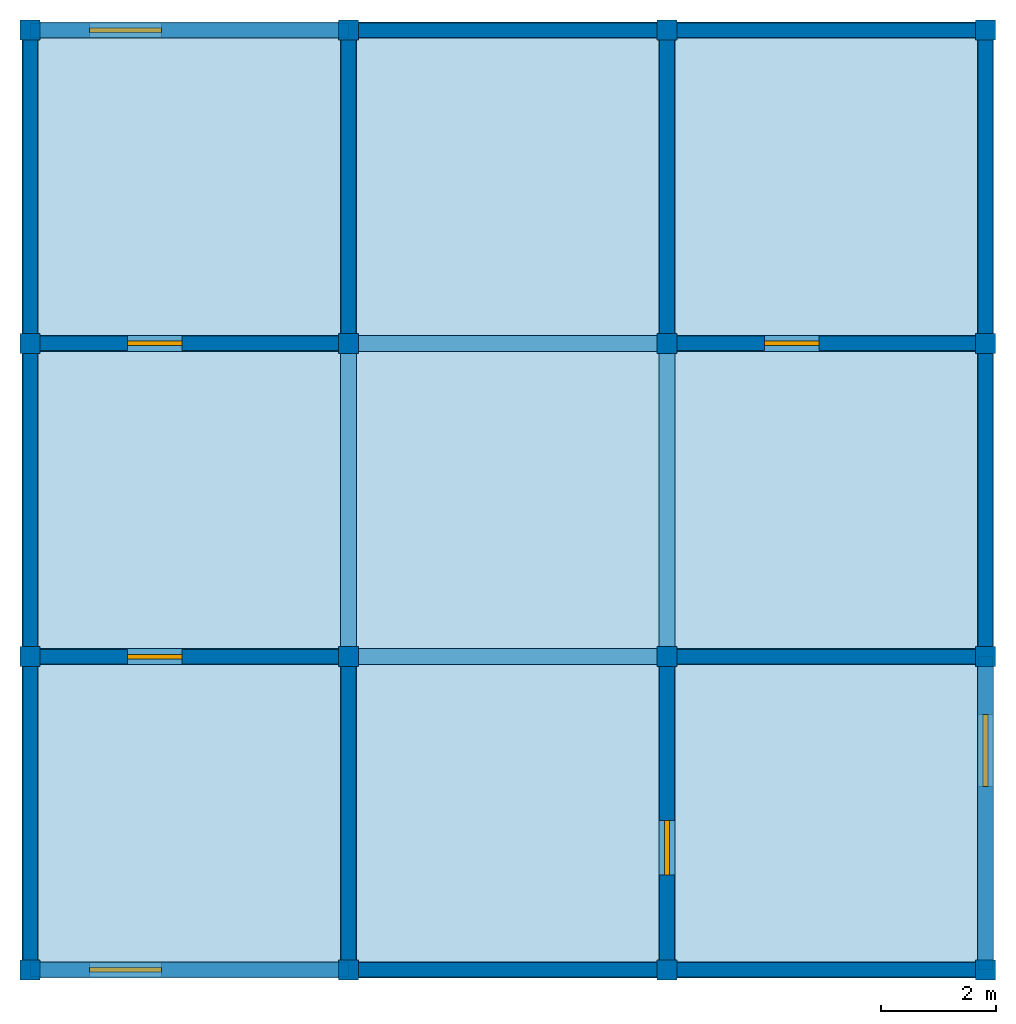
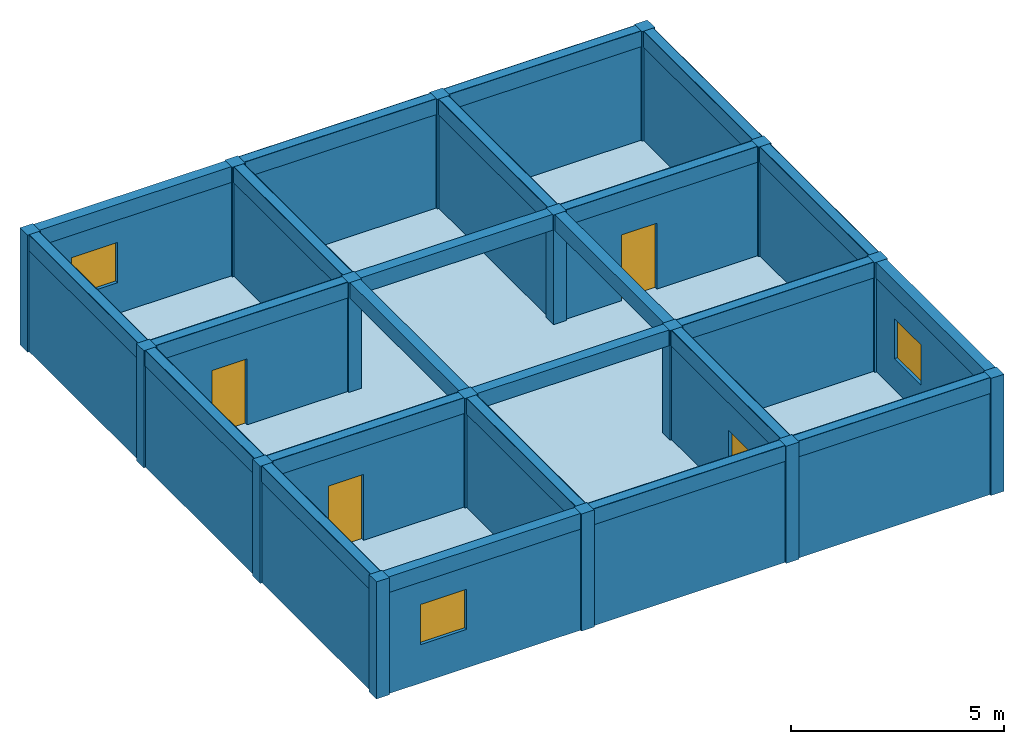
# One storey: 24 beams, 20 walls, 16 columns, 4 doors, 3 windows, 1 slab, 7 openings.
"""IFC4X3 building model written with IfcOpenShell, lengths in metres."""

from ifc_helpers import new_model, si_unit, frame, origin_with_axes, origin_2d, place, context, project, spatial, rectangle, extrude, material, element, fill, save


model = new_model("IFC4X3")

# Units and contexts
model_context = context("Model", 3, precision=1e-05, world=origin_with_axes())
ifc_project = project(units=[si_unit("LENGTHUNIT", "METRE"), si_unit("AREAUNIT", "SQUARE_METRE"), si_unit("VOLUMEUNIT", "CUBIC_METRE")], contexts=[model_context])

# Site, building, storey
site = spatial("IfcSite", under=ifc_project, Name="La Serena Parcel", CompositionType="ELEMENT")
building = spatial("IfcBuilding", under=site, Name="Atlas Building", CompositionType="ELEMENT")
storey = spatial("IfcBuildingStorey", under=building, Name="Level 8", CompositionType="ELEMENT", Elevation=23.44)

# Columns
ifc_material_1 = material(Name="Concrete")
column_1_placement = place(None, frame((-8.31, -8.175, 23.443), z_axis=(0.0, 0.0, 1.0), x_axis=(1.0, 0.0, 0.0)))
element("IfcColumn", 1, at=column_1_placement, inside=storey, material=ifc_material_1, Name="Column 8.1", ObjectType="Structural Column", PredefinedType="COLUMN", context=model_context, shape_type="SweptSolid", body=[
    extrude(rectangle(XDim=0.35, YDim=0.35, at=origin_2d()), origin_with_axes(), (0.0, 0.0, 1.0), 3.349),
])
for number, where, z_axis, x_axis, name in (
    (2, (-8.31, -2.725, 23.443), (0.0, 0.0, 1.0), (1.0, 0.0, 0.0), "Column 8.2"),
    (3, (-8.31, 2.725, 23.443), (0.0, 0.0, 1.0), (1.0, 0.0, 0.0), "Column 8.3"),
):
    element("IfcColumn", number, at=place(None, frame(where, z_axis=z_axis, x_axis=x_axis)), inside=storey, material=ifc_material_1, Name=name, ObjectType="Corner Column", PredefinedType="NOTDEFINED", context=model_context, shape_type="SweptSolid", body=[
        extrude(rectangle(XDim=0.35, YDim=0.35, at=origin_2d()), origin_with_axes(), (0.0, 0.0, 1.0), 3.349),
    ])
column_2_placement = place(None, frame((-8.31, 8.175, 23.443), z_axis=(0.0, 0.0, 1.0), x_axis=(1.0, 0.0, 0.0)))
element("IfcColumn", 4, at=column_2_placement, inside=storey, material=ifc_material_1, Name="Column 8.4", ObjectType="Facade Column", PredefinedType="PILASTER", context=model_context, shape_type="SweptSolid", body=[
    extrude(rectangle(XDim=0.35, YDim=0.35, at=origin_2d()), origin_with_axes(), (0.0, 0.0, 1.0), 3.349),
])
column_3_placement = place(None, frame((-2.77, -8.175, 23.443), z_axis=(0.0, 0.0, 1.0), x_axis=(1.0, 0.0, 0.0)))
element("IfcColumn", 5, at=column_3_placement, inside=storey, material=ifc_material_1, Name="Column 8.5", ObjectType="Corner Column", PredefinedType="USERDEFINED", context=model_context, shape_type="SweptSolid", body=[
    extrude(rectangle(XDim=0.35, YDim=0.35, at=origin_2d()), origin_with_axes(), (0.0, 0.0, 1.0), 3.349),
])
column_4_placement = place(None, frame((-2.77, -2.725, 23.443), z_axis=(0.0, 0.0, 1.0), x_axis=(1.0, 0.0, 0.0)))
element("IfcColumn", 6, at=column_4_placement, inside=storey, material=ifc_material_1, Name="Column 8.6", ObjectType="Structural Column", PredefinedType="COLUMN", context=model_context, shape_type="SweptSolid", body=[
    extrude(rectangle(XDim=0.35, YDim=0.35, at=origin_2d()), origin_with_axes(), (0.0, 0.0, 1.0), 3.349),
])
column_5_placement = place(None, frame((-2.77, 2.725, 23.443), z_axis=(0.0, 0.0, 1.0), x_axis=(1.0, 0.0, 0.0)))
element("IfcColumn", 7, at=column_5_placement, inside=storey, material=ifc_material_1, Name="Column 8.7", ObjectType="Core Column", PredefinedType="USERDEFINED", context=model_context, shape_type="SweptSolid", body=[
    extrude(rectangle(XDim=0.35, YDim=0.35, at=origin_2d()), origin_with_axes(), (0.0, 0.0, 1.0), 3.349),
])
column_6_placement = place(None, frame((-2.77, 8.175, 23.443), z_axis=(0.0, 0.0, 1.0), x_axis=(1.0, 0.0, 0.0)))
element("IfcColumn", 8, at=column_6_placement, inside=storey, material=ifc_material_1, Name="Column 8.8", ObjectType="Corner Column", PredefinedType="NOTDEFINED", context=model_context, shape_type="SweptSolid", body=[
    extrude(rectangle(XDim=0.35, YDim=0.35, at=origin_2d()), origin_with_axes(), (0.0, 0.0, 1.0), 3.349),
])
column_7_placement = place(None, frame((2.77, -8.175, 23.443), z_axis=(0.0, 0.0, 1.0), x_axis=(1.0, 0.0, 0.0)))
element("IfcColumn", 9, at=column_7_placement, inside=storey, material=ifc_material_1, Name="Column 8.9", ObjectType="Facade Column", PredefinedType="USERDEFINED", context=model_context, shape_type="SweptSolid", body=[
    extrude(rectangle(XDim=0.35, YDim=0.35, at=origin_2d()), origin_with_axes(), (0.0, 0.0, 1.0), 3.349),
])
column_8_placement = place(None, frame((2.77, -2.725, 23.443), z_axis=(0.0, 0.0, 1.0), x_axis=(1.0, 0.0, 0.0)))
element("IfcColumn", 10, at=column_8_placement, inside=storey, material=ifc_material_1, Name="Column 8.10", ObjectType="Corner Column", PredefinedType="NOTDEFINED", context=model_context, shape_type="SweptSolid", body=[
    extrude(rectangle(XDim=0.35, YDim=0.35, at=origin_2d()), origin_with_axes(), (0.0, 0.0, 1.0), 3.349),
])
column_9_placement = place(None, frame((2.77, 2.725, 23.443), z_axis=(0.0, 0.0, 1.0), x_axis=(1.0, 0.0, 0.0)))
element("IfcColumn", 11, at=column_9_placement, inside=storey, material=ifc_material_1, Name="Column 8.11", ObjectType="Corner Column", PredefinedType="USERDEFINED", context=model_context, shape_type="SweptSolid", body=[
    extrude(rectangle(XDim=0.35, YDim=0.35, at=origin_2d()), origin_with_axes(), (0.0, 0.0, 1.0), 3.349),
])
column_10_placement = place(None, frame((2.77, 8.175, 23.443), z_axis=(0.0, 0.0, 1.0), x_axis=(1.0, 0.0, 0.0)))
element("IfcColumn", 12, at=column_10_placement, inside=storey, material=ifc_material_1, Name="Column 8.12", ObjectType="Facade Column", PredefinedType="PILASTER", context=model_context, shape_type="SweptSolid", body=[
    extrude(rectangle(XDim=0.35, YDim=0.35, at=origin_2d()), origin_with_axes(), (0.0, 0.0, 1.0), 3.349),
])
column_11_placement = place(None, frame((8.31, -8.175, 23.443), z_axis=(0.0, 0.0, 1.0), x_axis=(1.0, 0.0, 0.0)))
element("IfcColumn", 13, at=column_11_placement, inside=storey, material=ifc_material_1, Name="Column 8.13", ObjectType="Core Column", PredefinedType="USERDEFINED", context=model_context, shape_type="SweptSolid", body=[
    extrude(rectangle(XDim=0.35, YDim=0.35, at=origin_2d()), origin_with_axes(), (0.0, 0.0, 1.0), 3.349),
])
column_12_placement = place(None, frame((8.31, -2.725, 23.443), z_axis=(0.0, 0.0, 1.0), x_axis=(1.0, 0.0, 0.0)))
element("IfcColumn", 14, at=column_12_placement, inside=storey, material=ifc_material_1, Name="Column 8.14", ObjectType="Core Column", PredefinedType="PILASTER", context=model_context, shape_type="SweptSolid", body=[
    extrude(rectangle(XDim=0.35, YDim=0.35, at=origin_2d()), origin_with_axes(), (0.0, 0.0, 1.0), 3.349),
])
column_13_placement = place(None, frame((8.31, 2.725, 23.443), z_axis=(0.0, 0.0, 1.0), x_axis=(1.0, 0.0, 0.0)))
element("IfcColumn", 15, at=column_13_placement, inside=storey, material=ifc_material_1, Name="Column 8.15", ObjectType="Corner Column", PredefinedType="COLUMN", context=model_context, shape_type="SweptSolid", body=[
    extrude(rectangle(XDim=0.35, YDim=0.35, at=origin_2d()), origin_with_axes(), (0.0, 0.0, 1.0), 3.349),
])
column_14_placement = place(None, frame((8.31, 8.175, 23.443), z_axis=(0.0, 0.0, 1.0), x_axis=(1.0, 0.0, 0.0)))
element("IfcColumn", 16, at=column_14_placement, inside=storey, material=ifc_material_1, Name="Column 8.16", ObjectType="Facade Column", PredefinedType="USERDEFINED", context=model_context, shape_type="SweptSolid", body=[
    extrude(rectangle(XDim=0.35, YDim=0.35, at=origin_2d()), origin_with_axes(), (0.0, 0.0, 1.0), 3.349),
])

# Beams
ifc_material_2 = material(Name="Timber")
beam_1_placement = place(None, frame((-5.54, -8.175, 26.342), z_axis=(0.0, 0.0, 1.0), x_axis=(1.0, 0.0, 0.0)))
element("IfcBeam", 17, at=beam_1_placement, inside=storey, material=ifc_material_2, Name="Beam 8.1", ObjectType="Primary Beam", PredefinedType="USERDEFINED", context=model_context, shape_type="SweptSolid", body=[
    extrude(rectangle(XDim=5.54, YDim=0.28, at=origin_2d()), origin_with_axes(), (0.0, 0.0, 1.0), 0.45),
])
beam_2_placement = place(None, frame((0.0, -8.175, 26.342), z_axis=(0.0, 0.0, 1.0), x_axis=(1.0, 0.0, 0.0)))
element("IfcBeam", 18, at=beam_2_placement, inside=storey, material=ifc_material_2, Name="Beam 8.2", ObjectType="Ridge Beam", PredefinedType="USERDEFINED", context=model_context, shape_type="SweptSolid", body=[
    extrude(rectangle(XDim=5.54, YDim=0.28, at=origin_2d()), origin_with_axes(), (0.0, 0.0, 1.0), 0.45),
])
beam_3_placement = place(None, frame((5.54, -8.175, 26.342), z_axis=(0.0, 0.0, 1.0), x_axis=(1.0, 0.0, 0.0)))
element("IfcBeam", 19, at=beam_3_placement, inside=storey, material=ifc_material_2, Name="Beam 8.3", ObjectType="Ridge Beam", PredefinedType="JOIST", context=model_context, shape_type="SweptSolid", body=[
    extrude(rectangle(XDim=5.54, YDim=0.28, at=origin_2d()), origin_with_axes(), (0.0, 0.0, 1.0), 0.45),
])
beam_4_placement = place(None, frame((-5.54, -2.725, 26.342), z_axis=(0.0, 0.0, 1.0), x_axis=(1.0, 0.0, 0.0)))
element("IfcBeam", 20, at=beam_4_placement, inside=storey, material=ifc_material_2, Name="Beam 8.4", ObjectType="Transfer Beam", PredefinedType="NOTDEFINED", context=model_context, shape_type="SweptSolid", body=[
    extrude(rectangle(XDim=5.54, YDim=0.28, at=origin_2d()), origin_with_axes(), (0.0, 0.0, 1.0), 0.45),
])
beam_5_placement = place(None, frame((0.0, -2.725, 26.342), z_axis=(0.0, 0.0, 1.0), x_axis=(1.0, 0.0, 0.0)))
element("IfcBeam", 21, at=beam_5_placement, inside=storey, material=ifc_material_2, Name="Beam 8.5", ObjectType="Ridge Beam", PredefinedType="NOTDEFINED", context=model_context, shape_type="SweptSolid", body=[
    extrude(rectangle(XDim=5.54, YDim=0.28, at=origin_2d()), origin_with_axes(), (0.0, 0.0, 1.0), 0.45),
])
beam_6_placement = place(None, frame((5.54, -2.725, 26.342), z_axis=(0.0, 0.0, 1.0), x_axis=(1.0, 0.0, 0.0)))
element("IfcBeam", 22, at=beam_6_placement, inside=storey, material=ifc_material_2, Name="Beam 8.6", ObjectType="Rafter Beam", PredefinedType="HOLLOWCORE", context=model_context, shape_type="SweptSolid", body=[
    extrude(rectangle(XDim=5.54, YDim=0.28, at=origin_2d()), origin_with_axes(), (0.0, 0.0, 1.0), 0.45),
])
beam_7_placement = place(None, frame((-5.54, 2.725, 26.342), z_axis=(0.0, 0.0, 1.0), x_axis=(1.0, 0.0, 0.0)))
element("IfcBeam", 23, at=beam_7_placement, inside=storey, material=ifc_material_2, Name="Beam 8.7", ObjectType="Rafter Beam", PredefinedType="JOIST", context=model_context, shape_type="SweptSolid", body=[
    extrude(rectangle(XDim=5.54, YDim=0.28, at=origin_2d()), origin_with_axes(), (0.0, 0.0, 1.0), 0.45),
])
beam_8_placement = place(None, frame((0.0, 2.725, 26.342), z_axis=(0.0, 0.0, 1.0), x_axis=(1.0, 0.0, 0.0)))
element("IfcBeam", 24, at=beam_8_placement, inside=storey, material=ifc_material_2, Name="Beam 8.8", ObjectType="Primary Beam", PredefinedType="NOTDEFINED", context=model_context, shape_type="SweptSolid", body=[
    extrude(rectangle(XDim=5.54, YDim=0.28, at=origin_2d()), origin_with_axes(), (0.0, 0.0, 1.0), 0.45),
])
beam_9_placement = place(None, frame((5.54, 2.725, 26.342), z_axis=(0.0, 0.0, 1.0), x_axis=(1.0, 0.0, 0.0)))
element("IfcBeam", 25, at=beam_9_placement, inside=storey, material=ifc_material_2, Name="Beam 8.9", ObjectType="Transfer Beam", PredefinedType="T_BEAM", context=model_context, shape_type="SweptSolid", body=[
    extrude(rectangle(XDim=5.54, YDim=0.28, at=origin_2d()), origin_with_axes(), (0.0, 0.0, 1.0), 0.45),
])
beam_10_placement = place(None, frame((-5.54, 8.175, 26.342), z_axis=(0.0, 0.0, 1.0), x_axis=(1.0, 0.0, 0.0)))
element("IfcBeam", 26, at=beam_10_placement, inside=storey, material=ifc_material_2, Name="Beam 8.10", ObjectType="Primary Beam", PredefinedType="SPANDREL", context=model_context, shape_type="SweptSolid", body=[
    extrude(rectangle(XDim=5.54, YDim=0.28, at=origin_2d()), origin_with_axes(), (0.0, 0.0, 1.0), 0.45),
])
beam_11_placement = place(None, frame((0.0, 8.175, 26.342), z_axis=(0.0, 0.0, 1.0), x_axis=(1.0, 0.0, 0.0)))
element("IfcBeam", 27, at=beam_11_placement, inside=storey, material=ifc_material_2, Name="Beam 8.11", ObjectType="Transfer Beam", PredefinedType="USERDEFINED", context=model_context, shape_type="SweptSolid", body=[
    extrude(rectangle(XDim=5.54, YDim=0.28, at=origin_2d()), origin_with_axes(), (0.0, 0.0, 1.0), 0.45),
])
beam_12_placement = place(None, frame((5.54, 8.175, 26.342), z_axis=(0.0, 0.0, 1.0), x_axis=(1.0, 0.0, 0.0)))
element("IfcBeam", 28, at=beam_12_placement, inside=storey, material=ifc_material_2, Name="Beam 8.12", ObjectType="Rafter Beam", PredefinedType="T_BEAM", context=model_context, shape_type="SweptSolid", body=[
    extrude(rectangle(XDim=5.54, YDim=0.28, at=origin_2d()), origin_with_axes(), (0.0, 0.0, 1.0), 0.45),
])
beam_13_placement = place(None, frame((-8.31, -5.45, 26.342), z_axis=(0.0, 0.0, 1.0), x_axis=(0.0, 1.0, 0.0)))
element("IfcBeam", 29, at=beam_13_placement, inside=storey, material=ifc_material_2, Name="Beam 8.13", ObjectType="Rafter Beam", PredefinedType="JOIST", context=model_context, shape_type="SweptSolid", body=[
    extrude(rectangle(XDim=5.45, YDim=0.28, at=origin_2d()), origin_with_axes(), (0.0, 0.0, 1.0), 0.45),
])
beam_14_placement = place(None, frame((-8.31, 0.0, 26.342), z_axis=(0.0, 0.0, 1.0), x_axis=(0.0, 1.0, 0.0)))
element("IfcBeam", 30, at=beam_14_placement, inside=storey, material=ifc_material_2, Name="Beam 8.14", ObjectType="Transfer Beam", PredefinedType="LINTEL", context=model_context, shape_type="SweptSolid", body=[
    extrude(rectangle(XDim=5.45, YDim=0.28, at=origin_2d()), origin_with_axes(), (0.0, 0.0, 1.0), 0.45),
])
beam_15_placement = place(None, frame((-8.31, 5.45, 26.342), z_axis=(0.0, 0.0, 1.0), x_axis=(0.0, 1.0, 0.0)))
element("IfcBeam", 31, at=beam_15_placement, inside=storey, material=ifc_material_2, Name="Beam 8.15", ObjectType="Rafter Beam", PredefinedType="LINTEL", context=model_context, shape_type="SweptSolid", body=[
    extrude(rectangle(XDim=5.45, YDim=0.28, at=origin_2d()), origin_with_axes(), (0.0, 0.0, 1.0), 0.45),
])
beam_16_placement = place(None, frame((-2.77, -5.45, 26.342), z_axis=(0.0, 0.0, 1.0), x_axis=(0.0, 1.0, 0.0)))
element("IfcBeam", 32, at=beam_16_placement, inside=storey, material=ifc_material_2, Name="Beam 8.16", ObjectType="Secondary Beam", PredefinedType="JOIST", context=model_context, shape_type="SweptSolid", body=[
    extrude(rectangle(XDim=5.45, YDim=0.28, at=origin_2d()), origin_with_axes(), (0.0, 0.0, 1.0), 0.45),
])
beam_17_placement = place(None, frame((-2.77, 0.0, 26.342), z_axis=(0.0, 0.0, 1.0), x_axis=(0.0, 1.0, 0.0)))
element("IfcBeam", 33, at=beam_17_placement, inside=storey, material=ifc_material_2, Name="Beam 8.17", ObjectType="Secondary Beam", PredefinedType="SPANDREL", context=model_context, shape_type="SweptSolid", body=[
    extrude(rectangle(XDim=5.45, YDim=0.28, at=origin_2d()), origin_with_axes(), (0.0, 0.0, 1.0), 0.45),
])
beam_18_placement = place(None, frame((-2.77, 5.45, 26.342), z_axis=(0.0, 0.0, 1.0), x_axis=(0.0, 1.0, 0.0)))
element("IfcBeam", 34, at=beam_18_placement, inside=storey, material=ifc_material_2, Name="Beam 8.18", ObjectType="Primary Beam", PredefinedType="HOLLOWCORE", context=model_context, shape_type="SweptSolid", body=[
    extrude(rectangle(XDim=5.45, YDim=0.28, at=origin_2d()), origin_with_axes(), (0.0, 0.0, 1.0), 0.45),
])
beam_19_placement = place(None, frame((2.77, -5.45, 26.342), z_axis=(0.0, 0.0, 1.0), x_axis=(0.0, 1.0, 0.0)))
element("IfcBeam", 35, at=beam_19_placement, inside=storey, material=ifc_material_2, Name="Beam 8.19", ObjectType="Primary Beam", PredefinedType="NOTDEFINED", context=model_context, shape_type="SweptSolid", body=[
    extrude(rectangle(XDim=5.45, YDim=0.28, at=origin_2d()), origin_with_axes(), (0.0, 0.0, 1.0), 0.45),
])
beam_20_placement = place(None, frame((2.77, 0.0, 26.342), z_axis=(0.0, 0.0, 1.0), x_axis=(0.0, 1.0, 0.0)))
element("IfcBeam", 36, at=beam_20_placement, inside=storey, material=ifc_material_2, Name="Beam 8.20", ObjectType="Transfer Beam", PredefinedType="LINTEL", context=model_context, shape_type="SweptSolid", body=[
    extrude(rectangle(XDim=5.45, YDim=0.28, at=origin_2d()), origin_with_axes(), (0.0, 0.0, 1.0), 0.45),
])
beam_21_placement = place(None, frame((2.77, 5.45, 26.342), z_axis=(0.0, 0.0, 1.0), x_axis=(0.0, 1.0, 0.0)))
element("IfcBeam", 37, at=beam_21_placement, inside=storey, material=ifc_material_2, Name="Beam 8.21", ObjectType="Secondary Beam", PredefinedType="LINTEL", context=model_context, shape_type="SweptSolid", body=[
    extrude(rectangle(XDim=5.45, YDim=0.28, at=origin_2d()), origin_with_axes(), (0.0, 0.0, 1.0), 0.45),
])
beam_22_placement = place(None, frame((8.31, -5.45, 26.342), z_axis=(0.0, 0.0, 1.0), x_axis=(0.0, 1.0, 0.0)))
element("IfcBeam", 38, at=beam_22_placement, inside=storey, material=ifc_material_2, Name="Beam 8.22", ObjectType="Secondary Beam", PredefinedType="T_BEAM", context=model_context, shape_type="SweptSolid", body=[
    extrude(rectangle(XDim=5.45, YDim=0.28, at=origin_2d()), origin_with_axes(), (0.0, 0.0, 1.0), 0.45),
])
beam_23_placement = place(None, frame((8.31, 0.0, 26.342), z_axis=(0.0, 0.0, 1.0), x_axis=(0.0, 1.0, 0.0)))
element("IfcBeam", 39, at=beam_23_placement, inside=storey, material=ifc_material_2, Name="Beam 8.23", ObjectType="Secondary Beam", PredefinedType="JOIST", context=model_context, shape_type="SweptSolid", body=[
    extrude(rectangle(XDim=5.45, YDim=0.28, at=origin_2d()), origin_with_axes(), (0.0, 0.0, 1.0), 0.45),
])
beam_24_placement = place(None, frame((8.31, 5.45, 26.342), z_axis=(0.0, 0.0, 1.0), x_axis=(0.0, 1.0, 0.0)))
element("IfcBeam", 40, at=beam_24_placement, inside=storey, material=ifc_material_2, Name="Beam 8.24", ObjectType="Primary Beam", PredefinedType="NOTDEFINED", context=model_context, shape_type="SweptSolid", body=[
    extrude(rectangle(XDim=5.45, YDim=0.28, at=origin_2d()), origin_with_axes(), (0.0, 0.0, 1.0), 0.45),
])

# Slab
slab_placement = place(None, frame((0.0, 0.0, 23.44), z_axis=(0.0, 0.0, 1.0), x_axis=(1.0, 0.0, 0.0)))
element("IfcSlab", 41, at=slab_placement, inside=storey, material=ifc_material_2, Name="Slab 8", ObjectType="Floor Slab", PredefinedType="FLOOR", context=model_context, shape_type="SweptSolid", body=[
    extrude(rectangle(XDim=16.62, YDim=16.35, at=origin_2d()), origin_with_axes(), (0.0, 0.0, 1.0), 0.22),
])

# Wall, opening, door
ifc_material_3 = material(Name="Gypsum")
wall_1_placement = place(None, frame((-5.54, -2.725, 23.443), z_axis=(0.0, 0.0, 1.0), x_axis=(1.0, 0.0, 0.0)))
wall_1 = element("IfcWall", 42, at=wall_1_placement, inside=storey, material=ifc_material_3, Name="Wall 8.1", ObjectType="Corridor Partition", PredefinedType="PARAPET", context=model_context, shape_type="SweptSolid", body=[
    extrude(rectangle(XDim=5.54, YDim=0.254169, at=origin_2d()), origin_with_axes(), (0.0, 0.0, 1.0), 3.349),
])
opening_1_placement = place(None, frame((-6.14, -2.725, 23.443), z_axis=(0.0, 0.0, 1.0), x_axis=(1.0, 0.0, 0.0)))
opening_1 = element("IfcOpeningElement", 43, at=opening_1_placement, cuts=wall_1, Name="Door opening 8.1", ObjectType="Door Opening", PredefinedType="OPENING", context=model_context, shape_type="SweptSolid", body=[
    extrude(rectangle(XDim=0.95, YDim=0.334169, at=origin_2d()), origin_with_axes(), (0.0, 0.0, 1.0), 2.1),
])
door_1_placement = place(None, frame((-6.14, -2.725, 23.443), z_axis=(0.0, 0.0, 1.0), x_axis=(1.0, 0.0, 0.0)))
door_1 = element("IfcDoor", 44, at=door_1_placement, inside=storey, Name="Door 8.1", ObjectType="Entry Door", OverallHeight=2.1, OverallWidth=0.95, context=model_context, shape_type="SweptSolid", body=[
    extrude(rectangle(XDim=0.95, YDim=0.08, at=origin_2d()), origin_with_axes(), (0.0, 0.0, 1.0), 2.1),
])
fill(opening_1, door_1)

# Wall
ifc_material_4 = material(Name="CLT")
wall_2_placement = place(None, frame((-2.77, -5.45, 23.443), z_axis=(0.0, 0.0, 1.0), x_axis=(0.0, 1.0, 0.0)))
element("IfcWall", 45, at=wall_2_placement, inside=storey, material=ifc_material_4, Name="Wall 8.2", ObjectType="Corridor Partition", PredefinedType="NOTDEFINED", context=model_context, shape_type="SweptSolid", body=[
    extrude(rectangle(XDim=5.45, YDim=0.254169, at=origin_2d()), origin_with_axes(), (0.0, 0.0, 1.0), 3.349),
])

# Wall, opening, window
wall_3_placement = place(None, frame((-5.54, -8.175, 23.443), z_axis=(0.0, 0.0, 1.0), x_axis=(1.0, 0.0, 0.0)))
wall_3 = element("IfcWall", 46, at=wall_3_placement, inside=storey, material=ifc_material_4, Name="Wall 8.3", ObjectType="Exterior Wall", PredefinedType="PARTITIONING", context=model_context, shape_type="SweptSolid", body=[
    extrude(rectangle(XDim=5.54, YDim=0.254169, at=origin_2d()), origin_with_axes(), (0.0, 0.0, 1.0), 3.349),
])
opening_2_placement = place(None, frame((-6.648, -8.175, 24.543), z_axis=(0.0, 0.0, 1.0), x_axis=(1.0, 0.0, 0.0)))
opening_2 = element("IfcOpeningElement", 47, at=opening_2_placement, cuts=wall_3, Name="Window opening 8.2", ObjectType="Window Opening", PredefinedType="OPENING", context=model_context, shape_type="SweptSolid", body=[
    extrude(rectangle(XDim=1.25, YDim=0.334169, at=origin_2d()), origin_with_axes(), (0.0, 0.0, 1.0), 1.15),
])
window_1_placement = place(None, frame((-6.648, -8.175, 24.543), z_axis=(0.0, 0.0, 1.0), x_axis=(1.0, 0.0, 0.0)))
window_1 = element("IfcWindow", 48, at=window_1_placement, inside=storey, Name="Window 8.2", ObjectType="Operable Window", OverallHeight=1.15, OverallWidth=1.25, context=model_context, shape_type="SweptSolid", body=[
    extrude(rectangle(XDim=1.25, YDim=0.08, at=origin_2d()), origin_with_axes(), (0.0, 0.0, 1.0), 1.15),
])
fill(opening_2, window_1)

# Wall
wall_4_placement = place(None, frame((-8.31, -5.45, 23.443), z_axis=(0.0, 0.0, 1.0), x_axis=(0.0, 1.0, 0.0)))
element("IfcWall", 49, at=wall_4_placement, inside=storey, material=ifc_material_3, Name="Wall 8.4", ObjectType="Exterior Wall", PredefinedType="PLUMBINGWALL", context=model_context, shape_type="SweptSolid", body=[
    extrude(rectangle(XDim=5.45, YDim=0.254169, at=origin_2d()), origin_with_axes(), (0.0, 0.0, 1.0), 3.349),
])

# Wall, opening, door
wall_5_placement = place(None, frame((2.77, -5.45, 23.443), z_axis=(0.0, 0.0, 1.0), x_axis=(0.0, 1.0, 0.0)))
wall_5 = element("IfcWall", 50, at=wall_5_placement, inside=storey, material=ifc_material_3, Name="Wall 8.5", ObjectType="Corridor Partition", PredefinedType="POLYGONAL", context=model_context, shape_type="SweptSolid", body=[
    extrude(rectangle(XDim=5.45, YDim=0.254169, at=origin_2d()), origin_with_axes(), (0.0, 0.0, 1.0), 3.349),
])
opening_3_placement = place(None, frame((2.77, -6.05, 23.443), z_axis=(0.0, 0.0, 1.0), x_axis=(0.0, 1.0, 0.0)))
opening_3 = element("IfcOpeningElement", 51, at=opening_3_placement, cuts=wall_5, Name="Door opening 8.3", ObjectType="Door Opening", PredefinedType="OPENING", context=model_context, shape_type="SweptSolid", body=[
    extrude(rectangle(XDim=0.95, YDim=0.334169, at=origin_2d()), origin_with_axes(), (0.0, 0.0, 1.0), 2.1),
])
door_2_placement = place(None, frame((2.77, -6.05, 23.443), z_axis=(0.0, 0.0, 1.0), x_axis=(0.0, 1.0, 0.0)))
door_2 = element("IfcDoor", 52, at=door_2_placement, inside=storey, Name="Door 8.3", ObjectType="Entry Door", OverallHeight=2.1, OverallWidth=0.95, context=model_context, shape_type="SweptSolid", body=[
    extrude(rectangle(XDim=0.95, YDim=0.08, at=origin_2d()), origin_with_axes(), (0.0, 0.0, 1.0), 2.1),
])
fill(opening_3, door_2)

# Walls
wall_6_placement = place(None, frame((0.0, -8.175, 23.443), z_axis=(0.0, 0.0, 1.0), x_axis=(1.0, 0.0, 0.0)))
element("IfcWall", 53, at=wall_6_placement, inside=storey, material=ifc_material_1, Name="Wall 8.6", ObjectType="Exterior Wall", PredefinedType="STANDARD", context=model_context, shape_type="SweptSolid", body=[
    extrude(rectangle(XDim=5.54, YDim=0.254169, at=origin_2d()), origin_with_axes(), (0.0, 0.0, 1.0), 3.349),
])
ifc_material_5 = material(Name="Brick")
wall_7_placement = place(None, frame((5.54, -2.725, 23.443), z_axis=(0.0, 0.0, 1.0), x_axis=(1.0, 0.0, 0.0)))
element("IfcWall", 54, at=wall_7_placement, inside=storey, material=ifc_material_5, Name="Wall 8.7", ObjectType="Corridor Partition", PredefinedType="PLUMBINGWALL", context=model_context, shape_type="SweptSolid", body=[
    extrude(rectangle(XDim=5.54, YDim=0.254169, at=origin_2d()), origin_with_axes(), (0.0, 0.0, 1.0), 3.349),
])

# Wall, opening, window
wall_8_placement = place(None, frame((8.31, -5.45, 23.443), z_axis=(0.0, 0.0, 1.0), x_axis=(0.0, 1.0, 0.0)))
wall_8 = element("IfcWall", 55, at=wall_8_placement, inside=storey, material=ifc_material_3, Name="Wall 8.8", ObjectType="Exterior Wall", PredefinedType="POLYGONAL", context=model_context, shape_type="SweptSolid", body=[
    extrude(rectangle(XDim=5.45, YDim=0.254169, at=origin_2d()), origin_with_axes(), (0.0, 0.0, 1.0), 3.349),
])
opening_4_placement = place(None, frame((8.31, -4.36, 24.543), z_axis=(0.0, 0.0, 1.0), x_axis=(0.0, 1.0, 0.0)))
opening_4 = element("IfcOpeningElement", 56, at=opening_4_placement, cuts=wall_8, Name="Window opening 8.4", ObjectType="Window Opening", PredefinedType="OPENING", context=model_context, shape_type="SweptSolid", body=[
    extrude(rectangle(XDim=1.25, YDim=0.334169, at=origin_2d()), origin_with_axes(), (0.0, 0.0, 1.0), 1.15),
])
window_2_placement = place(None, frame((8.31, -4.36, 24.543), z_axis=(0.0, 0.0, 1.0), x_axis=(0.0, 1.0, 0.0)))
window_2 = element("IfcWindow", 57, at=window_2_placement, inside=storey, Name="Window 8.4", ObjectType="Louvre Window", OverallHeight=1.15, OverallWidth=1.25, context=model_context, shape_type="SweptSolid", body=[
    extrude(rectangle(XDim=1.25, YDim=0.08, at=origin_2d()), origin_with_axes(), (0.0, 0.0, 1.0), 1.15),
])
fill(opening_4, window_2)

# Wall
wall_9_placement = place(None, frame((5.54, -8.175, 23.443), z_axis=(0.0, 0.0, 1.0), x_axis=(1.0, 0.0, 0.0)))
element("IfcWall", 58, at=wall_9_placement, inside=storey, material=ifc_material_1, Name="Wall 8.9", ObjectType="Exterior Wall", PredefinedType="USERDEFINED", context=model_context, shape_type="SweptSolid", body=[
    extrude(rectangle(XDim=5.54, YDim=0.254169, at=origin_2d()), origin_with_axes(), (0.0, 0.0, 1.0), 3.349),
])

# Wall, opening, door
wall_10_placement = place(None, frame((-5.54, 2.725, 23.443), z_axis=(0.0, 0.0, 1.0), x_axis=(1.0, 0.0, 0.0)))
wall_10 = element("IfcWall", 59, at=wall_10_placement, inside=storey, material=ifc_material_3, Name="Wall 8.10", ObjectType="Corridor Partition", PredefinedType="MOVABLE", context=model_context, shape_type="SweptSolid", body=[
    extrude(rectangle(XDim=5.54, YDim=0.254169, at=origin_2d()), origin_with_axes(), (0.0, 0.0, 1.0), 3.349),
])
opening_5_placement = place(None, frame((-6.14, 2.725, 23.443), z_axis=(0.0, 0.0, 1.0), x_axis=(1.0, 0.0, 0.0)))
opening_5 = element("IfcOpeningElement", 60, at=opening_5_placement, cuts=wall_10, Name="Door opening 8.5", ObjectType="Door Opening", PredefinedType="OPENING", context=model_context, shape_type="SweptSolid", body=[
    extrude(rectangle(XDim=0.95, YDim=0.334169, at=origin_2d()), origin_with_axes(), (0.0, 0.0, 1.0), 2.1),
])
door_3_placement = place(None, frame((-6.14, 2.725, 23.443), z_axis=(0.0, 0.0, 1.0), x_axis=(1.0, 0.0, 0.0)))
door_3 = element("IfcDoor", 61, at=door_3_placement, inside=storey, Name="Door 8.5", ObjectType="Interior Door", OverallHeight=2.1, OverallWidth=0.95, context=model_context, shape_type="SweptSolid", body=[
    extrude(rectangle(XDim=0.95, YDim=0.08, at=origin_2d()), origin_with_axes(), (0.0, 0.0, 1.0), 2.1),
])
fill(opening_5, door_3)

# Wall
wall_11_placement = place(None, frame((-8.31, 0.0, 23.443), z_axis=(0.0, 0.0, 1.0), x_axis=(0.0, 1.0, 0.0)))
element("IfcWall", 62, at=wall_11_placement, inside=storey, material=ifc_material_4, Name="Wall 8.11", ObjectType="Exterior Wall", PredefinedType="SOLIDWALL", context=model_context, shape_type="SweptSolid", body=[
    extrude(rectangle(XDim=5.45, YDim=0.254169, at=origin_2d()), origin_with_axes(), (0.0, 0.0, 1.0), 3.349),
])

# Wall, opening, door
wall_12_placement = place(None, frame((5.54, 2.725, 23.443), z_axis=(0.0, 0.0, 1.0), x_axis=(1.0, 0.0, 0.0)))
wall_12 = element("IfcWall", 63, at=wall_12_placement, inside=storey, material=ifc_material_4, Name="Wall 8.12", ObjectType="Corridor Partition", PredefinedType="MOVABLE", context=model_context, shape_type="SweptSolid", body=[
    extrude(rectangle(XDim=5.54, YDim=0.254169, at=origin_2d()), origin_with_axes(), (0.0, 0.0, 1.0), 3.349),
])
opening_6_placement = place(None, frame((4.94, 2.725, 23.443), z_axis=(0.0, 0.0, 1.0), x_axis=(1.0, 0.0, 0.0)))
opening_6 = element("IfcOpeningElement", 64, at=opening_6_placement, cuts=wall_12, Name="Door opening 8.7", ObjectType="Door Opening", PredefinedType="OPENING", context=model_context, shape_type="SweptSolid", body=[
    extrude(rectangle(XDim=0.95, YDim=0.334169, at=origin_2d()), origin_with_axes(), (0.0, 0.0, 1.0), 2.1),
])
door_4_placement = place(None, frame((4.94, 2.725, 23.443), z_axis=(0.0, 0.0, 1.0), x_axis=(1.0, 0.0, 0.0)))
door_4 = element("IfcDoor", 65, at=door_4_placement, inside=storey, Name="Door 8.7", ObjectType="Entry Door", OverallHeight=2.1, OverallWidth=0.95, context=model_context, shape_type="SweptSolid", body=[
    extrude(rectangle(XDim=0.95, YDim=0.08, at=origin_2d()), origin_with_axes(), (0.0, 0.0, 1.0), 2.1),
])
fill(opening_6, door_4)

# Wall
wall_13_placement = place(None, frame((8.31, 0.0, 23.443), z_axis=(0.0, 0.0, 1.0), x_axis=(0.0, 1.0, 0.0)))
element("IfcWall", 66, at=wall_13_placement, inside=storey, material=ifc_material_5, Name="Wall 8.13", ObjectType="Exterior Wall", PredefinedType="PLUMBINGWALL", context=model_context, shape_type="SweptSolid", body=[
    extrude(rectangle(XDim=5.45, YDim=0.254169, at=origin_2d()), origin_with_axes(), (0.0, 0.0, 1.0), 3.349),
])

# Wall, opening, window
wall_14_placement = place(None, frame((-5.54, 8.175, 23.443), z_axis=(0.0, 0.0, 1.0), x_axis=(1.0, 0.0, 0.0)))
wall_14 = element("IfcWall", 67, at=wall_14_placement, inside=storey, material=ifc_material_4, Name="Wall 8.14", ObjectType="Exterior Wall", PredefinedType="NOTDEFINED", context=model_context, shape_type="SweptSolid", body=[
    extrude(rectangle(XDim=5.54, YDim=0.254169, at=origin_2d()), origin_with_axes(), (0.0, 0.0, 1.0), 3.349),
])
opening_7_placement = place(None, frame((-6.648, 8.175, 24.543), z_axis=(0.0, 0.0, 1.0), x_axis=(1.0, 0.0, 0.0)))
opening_7 = element("IfcOpeningElement", 68, at=opening_7_placement, cuts=wall_14, Name="Window opening 8.6", ObjectType="Window Opening", PredefinedType="OPENING", context=model_context, shape_type="SweptSolid", body=[
    extrude(rectangle(XDim=1.25, YDim=0.334169, at=origin_2d()), origin_with_axes(), (0.0, 0.0, 1.0), 1.15),
])
window_3_placement = place(None, frame((-6.648, 8.175, 24.543), z_axis=(0.0, 0.0, 1.0), x_axis=(1.0, 0.0, 0.0)))
window_3 = element("IfcWindow", 69, at=window_3_placement, inside=storey, Name="Window 8.6", ObjectType="Operable Window", OverallHeight=1.15, OverallWidth=1.25, context=model_context, shape_type="SweptSolid", body=[
    extrude(rectangle(XDim=1.25, YDim=0.08, at=origin_2d()), origin_with_axes(), (0.0, 0.0, 1.0), 1.15),
])
fill(opening_7, window_3)

# Walls
wall_15_placement = place(None, frame((-2.77, 5.45, 23.443), z_axis=(0.0, 0.0, 1.0), x_axis=(0.0, 1.0, 0.0)))
element("IfcWall", 70, at=wall_15_placement, inside=storey, material=ifc_material_1, Name="Wall 8.15", ObjectType="Corridor Partition", PredefinedType="PLUMBINGWALL", context=model_context, shape_type="SweptSolid", body=[
    extrude(rectangle(XDim=5.45, YDim=0.254169, at=origin_2d()), origin_with_axes(), (0.0, 0.0, 1.0), 3.349),
])
wall_16_placement = place(None, frame((-8.31, 5.45, 23.443), z_axis=(0.0, 0.0, 1.0), x_axis=(0.0, 1.0, 0.0)))
element("IfcWall", 71, at=wall_16_placement, inside=storey, material=ifc_material_3, Name="Wall 8.16", ObjectType="Exterior Wall", PredefinedType="ELEMENTEDWALL", context=model_context, shape_type="SweptSolid", body=[
    extrude(rectangle(XDim=5.45, YDim=0.254169, at=origin_2d()), origin_with_axes(), (0.0, 0.0, 1.0), 3.349),
])
wall_17_placement = place(None, frame((0.0, 8.175, 23.443), z_axis=(0.0, 0.0, 1.0), x_axis=(1.0, 0.0, 0.0)))
element("IfcWall", 72, at=wall_17_placement, inside=storey, material=ifc_material_5, Name="Wall 8.17", ObjectType="Exterior Wall", PredefinedType="PARTITIONING", context=model_context, shape_type="SweptSolid", body=[
    extrude(rectangle(XDim=5.54, YDim=0.254169, at=origin_2d()), origin_with_axes(), (0.0, 0.0, 1.0), 3.349),
])
wall_18_placement = place(None, frame((2.77, 5.45, 23.443), z_axis=(0.0, 0.0, 1.0), x_axis=(0.0, 1.0, 0.0)))
element("IfcWall", 73, at=wall_18_placement, inside=storey, material=ifc_material_4, Name="Wall 8.18", ObjectType="Corridor Partition", PredefinedType="USERDEFINED", context=model_context, shape_type="SweptSolid", body=[
    extrude(rectangle(XDim=5.45, YDim=0.254169, at=origin_2d()), origin_with_axes(), (0.0, 0.0, 1.0), 3.349),
])
wall_19_placement = place(None, frame((5.54, 8.175, 23.443), z_axis=(0.0, 0.0, 1.0), x_axis=(1.0, 0.0, 0.0)))
element("IfcWall", 74, at=wall_19_placement, inside=storey, material=ifc_material_4, Name="Wall 8.19", ObjectType="Exterior Wall", PredefinedType="ELEMENTEDWALL", context=model_context, shape_type="SweptSolid", body=[
    extrude(rectangle(XDim=5.54, YDim=0.254169, at=origin_2d()), origin_with_axes(), (0.0, 0.0, 1.0), 3.349),
])
wall_20_placement = place(None, frame((8.31, 5.45, 23.443), z_axis=(0.0, 0.0, 1.0), x_axis=(0.0, 1.0, 0.0)))
element("IfcWall", 75, at=wall_20_placement, inside=storey, material=ifc_material_5, Name="Wall 8.20", ObjectType="Exterior Wall", PredefinedType="SOLIDWALL", context=model_context, shape_type="SweptSolid", body=[
    extrude(rectangle(XDim=5.45, YDim=0.254169, at=origin_2d()), origin_with_axes(), (0.0, 0.0, 1.0), 3.349),
])

save(model, "model.ifc")
